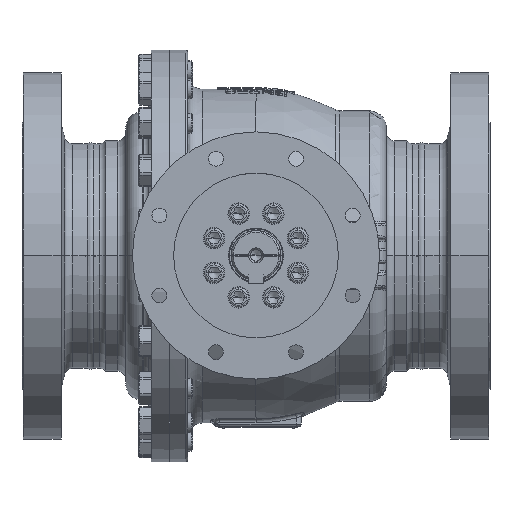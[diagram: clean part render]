
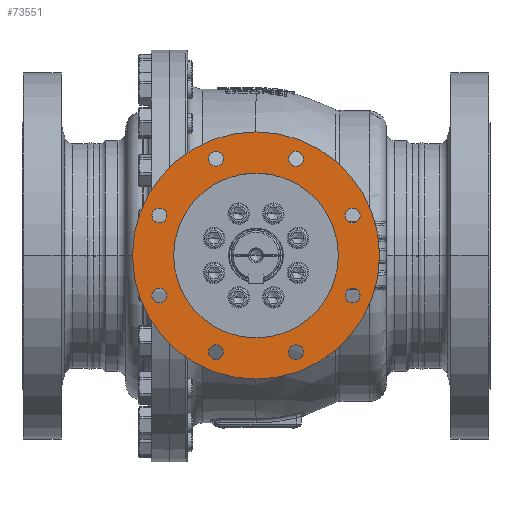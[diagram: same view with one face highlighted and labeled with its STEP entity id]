
A CAD part, top view. The second image highlights one B-rep face of the part: STEP entity #73551.
In plain terms, the highlighted planar face has unit normal (0, 0, 1).
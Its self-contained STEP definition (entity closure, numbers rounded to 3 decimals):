
#8326=CARTESIAN_POINT('',(0.,0.,349.));
#8327=DIRECTION('',(0.,0.,1.));
#8328=DIRECTION('',(1.,0.,0.));
#8329=AXIS2_PLACEMENT_3D('',#8326,#8327,#8328);
#8331=CARTESIAN_POINT('',(0.,0.,349.));
#8332=DIRECTION('',(0.,0.,-1.));
#8333=DIRECTION('',(1.,0.,0.));
#8334=AXIS2_PLACEMENT_3D('',#8331,#8332,#8333);
#8336=CARTESIAN_POINT('',(-117.333,48.601,349.));
#8337=DIRECTION('',(0.,0.,-1.));
#8338=DIRECTION('',(-1.,0.,0.));
#8339=AXIS2_PLACEMENT_3D('',#8336,#8337,#8338);
#8341=CARTESIAN_POINT('',(-117.333,48.601,349.));
#8342=DIRECTION('',(0.,0.,-1.));
#8343=DIRECTION('',(1.,0.,0.));
#8344=AXIS2_PLACEMENT_3D('',#8341,#8342,#8343);
#8346=CARTESIAN_POINT('',(-48.601,117.333,349.));
#8347=DIRECTION('',(0.,0.,-1.));
#8348=DIRECTION('',(-0.707,0.707,0.));
#8349=AXIS2_PLACEMENT_3D('',#8346,#8347,#8348);
#8351=CARTESIAN_POINT('',(-48.601,117.333,349.));
#8352=DIRECTION('',(0.,0.,-1.));
#8353=DIRECTION('',(0.707,-0.707,0.));
#8354=AXIS2_PLACEMENT_3D('',#8351,#8352,#8353);
#8356=CARTESIAN_POINT('',(48.601,117.333,349.));
#8357=DIRECTION('',(0.,0.,-1.));
#8358=DIRECTION('',(0.,1.,0.));
#8359=AXIS2_PLACEMENT_3D('',#8356,#8357,#8358);
#8361=CARTESIAN_POINT('',(48.601,117.333,349.));
#8362=DIRECTION('',(0.,0.,-1.));
#8363=DIRECTION('',(0.,-1.,0.));
#8364=AXIS2_PLACEMENT_3D('',#8361,#8362,#8363);
#8366=CARTESIAN_POINT('',(117.333,48.601,349.));
#8367=DIRECTION('',(0.,0.,-1.));
#8368=DIRECTION('',(0.707,0.707,0.));
#8369=AXIS2_PLACEMENT_3D('',#8366,#8367,#8368);
#8371=CARTESIAN_POINT('',(117.333,48.601,349.));
#8372=DIRECTION('',(0.,0.,-1.));
#8373=DIRECTION('',(-0.707,-0.707,0.));
#8374=AXIS2_PLACEMENT_3D('',#8371,#8372,#8373);
#8376=CARTESIAN_POINT('',(117.333,-48.601,349.));
#8377=DIRECTION('',(0.,0.,-1.));
#8378=DIRECTION('',(1.,0.,0.));
#8379=AXIS2_PLACEMENT_3D('',#8376,#8377,#8378);
#8381=CARTESIAN_POINT('',(117.333,-48.601,349.));
#8382=DIRECTION('',(0.,0.,-1.));
#8383=DIRECTION('',(-1.,0.,0.));
#8384=AXIS2_PLACEMENT_3D('',#8381,#8382,#8383);
#8386=CARTESIAN_POINT('',(48.601,-117.333,349.));
#8387=DIRECTION('',(0.,0.,-1.));
#8388=DIRECTION('',(0.707,-0.707,0.));
#8389=AXIS2_PLACEMENT_3D('',#8386,#8387,#8388);
#8391=CARTESIAN_POINT('',(48.601,-117.333,349.));
#8392=DIRECTION('',(0.,0.,-1.));
#8393=DIRECTION('',(-0.707,0.707,0.));
#8394=AXIS2_PLACEMENT_3D('',#8391,#8392,#8393);
#8396=CARTESIAN_POINT('',(-48.601,-117.333,349.));
#8397=DIRECTION('',(0.,0.,-1.));
#8398=DIRECTION('',(0.,-1.,0.));
#8399=AXIS2_PLACEMENT_3D('',#8396,#8397,#8398);
#8401=CARTESIAN_POINT('',(-48.601,-117.333,349.));
#8402=DIRECTION('',(0.,0.,-1.));
#8403=DIRECTION('',(0.,1.,0.));
#8404=AXIS2_PLACEMENT_3D('',#8401,#8402,#8403);
#8406=CARTESIAN_POINT('',(-117.333,-48.601,349.));
#8407=DIRECTION('',(0.,0.,-1.));
#8408=DIRECTION('',(-0.707,-0.707,0.));
#8409=AXIS2_PLACEMENT_3D('',#8406,#8407,#8408);
#8411=CARTESIAN_POINT('',(-117.333,-48.601,349.));
#8412=DIRECTION('',(0.,0.,-1.));
#8413=DIRECTION('',(0.707,0.707,0.));
#8414=AXIS2_PLACEMENT_3D('',#8411,#8412,#8413);
#8420=CARTESIAN_POINT('',(0.,0.,349.));
#8421=DIRECTION('',(0.,0.,-1.));
#8422=DIRECTION('',(1.,0.,0.));
#8423=AXIS2_PLACEMENT_3D('',#8420,#8421,#8422);
#8429=CARTESIAN_POINT('',(0.,0.,349.));
#8430=DIRECTION('',(0.,0.,1.));
#8431=DIRECTION('',(1.,0.,0.));
#8432=AXIS2_PLACEMENT_3D('',#8429,#8430,#8431);
#58408=CARTESIAN_POINT('',(100.,0.,349.));
#58410=VERTEX_POINT('',#58408);
#58412=CARTESIAN_POINT('',(-100.,0.,349.));
#58414=VERTEX_POINT('',#58412);
#58416=CARTESIAN_POINT('',(150.,0.,349.));
#58417=CARTESIAN_POINT('',(-150.,0.,349.));
#58418=VERTEX_POINT('',#58416);
#58419=VERTEX_POINT('',#58417);
#58552=CARTESIAN_POINT('',(-126.333,48.601,349.));
#58553=CARTESIAN_POINT('',(-108.333,48.601,349.));
#58554=VERTEX_POINT('',#58552);
#58555=VERTEX_POINT('',#58553);
#58556=CARTESIAN_POINT('',(-54.965,123.697,349.));
#58557=CARTESIAN_POINT('',(-42.237,110.969,349.));
#58558=VERTEX_POINT('',#58556);
#58559=VERTEX_POINT('',#58557);
#58560=CARTESIAN_POINT('',(48.601,126.333,349.));
#58561=CARTESIAN_POINT('',(48.601,108.333,349.));
#58562=VERTEX_POINT('',#58560);
#58563=VERTEX_POINT('',#58561);
#58564=CARTESIAN_POINT('',(123.697,54.965,349.));
#58565=CARTESIAN_POINT('',(110.969,42.237,349.));
#58566=VERTEX_POINT('',#58564);
#58567=VERTEX_POINT('',#58565);
#58568=CARTESIAN_POINT('',(126.333,-48.601,349.));
#58569=CARTESIAN_POINT('',(108.333,-48.601,349.));
#58570=VERTEX_POINT('',#58568);
#58571=VERTEX_POINT('',#58569);
#58572=CARTESIAN_POINT('',(54.965,-123.697,349.));
#58573=CARTESIAN_POINT('',(42.237,-110.969,349.));
#58574=VERTEX_POINT('',#58572);
#58575=VERTEX_POINT('',#58573);
#58576=CARTESIAN_POINT('',(-48.601,-126.333,349.));
#58577=CARTESIAN_POINT('',(-48.601,-108.333,349.));
#58578=VERTEX_POINT('',#58576);
#58579=VERTEX_POINT('',#58577);
#58580=CARTESIAN_POINT('',(-123.697,-54.965,349.));
#58581=CARTESIAN_POINT('',(-110.969,-42.237,349.));
#58582=VERTEX_POINT('',#58580);
#58583=VERTEX_POINT('',#58581);
#73488=CARTESIAN_POINT('',(0.,0.,349.));
#73489=DIRECTION('',(0.,0.,1.));
#73490=DIRECTION('',(1.,0.,0.));
#73491=AXIS2_PLACEMENT_3D('',#73488,#73489,#73490);
#73492=PLANE('',#73491);
#73493=ORIENTED_EDGE('',*,*,#73467,.F.);
#73494=ORIENTED_EDGE('',*,*,#73483,.T.);
#73495=EDGE_LOOP('',(#73493,#73494));
#73496=FACE_OUTER_BOUND('',#73495,.F.);
#73498=ORIENTED_EDGE('',*,*,#73497,.F.);
#73500=ORIENTED_EDGE('',*,*,#73499,.T.);
#73501=EDGE_LOOP('',(#73498,#73500));
#73502=FACE_BOUND('',#73501,.F.);
#73504=ORIENTED_EDGE('',*,*,#73503,.F.);
#73506=ORIENTED_EDGE('',*,*,#73505,.F.);
#73507=EDGE_LOOP('',(#73504,#73506));
#73508=FACE_BOUND('',#73507,.F.);
#73510=ORIENTED_EDGE('',*,*,#73509,.F.);
#73512=ORIENTED_EDGE('',*,*,#73511,.F.);
#73513=EDGE_LOOP('',(#73510,#73512));
#73514=FACE_BOUND('',#73513,.F.);
#73516=ORIENTED_EDGE('',*,*,#73515,.F.);
#73518=ORIENTED_EDGE('',*,*,#73517,.F.);
#73519=EDGE_LOOP('',(#73516,#73518));
#73520=FACE_BOUND('',#73519,.F.);
#73522=ORIENTED_EDGE('',*,*,#73521,.F.);
#73524=ORIENTED_EDGE('',*,*,#73523,.F.);
#73525=EDGE_LOOP('',(#73522,#73524));
#73526=FACE_BOUND('',#73525,.F.);
#73528=ORIENTED_EDGE('',*,*,#73527,.F.);
#73530=ORIENTED_EDGE('',*,*,#73529,.F.);
#73531=EDGE_LOOP('',(#73528,#73530));
#73532=FACE_BOUND('',#73531,.F.);
#73534=ORIENTED_EDGE('',*,*,#73533,.F.);
#73536=ORIENTED_EDGE('',*,*,#73535,.F.);
#73537=EDGE_LOOP('',(#73534,#73536));
#73538=FACE_BOUND('',#73537,.F.);
#73540=ORIENTED_EDGE('',*,*,#73539,.F.);
#73542=ORIENTED_EDGE('',*,*,#73541,.F.);
#73543=EDGE_LOOP('',(#73540,#73542));
#73544=FACE_BOUND('',#73543,.F.);
#73546=ORIENTED_EDGE('',*,*,#73545,.F.);
#73548=ORIENTED_EDGE('',*,*,#73547,.F.);
#73549=EDGE_LOOP('',(#73546,#73548));
#73550=FACE_BOUND('',#73549,.F.);
#73551=ADVANCED_FACE('',(#73496,#73502,#73508,#73514,#73520,#73526,#73532,
#73538,#73544,#73550),#73492,.T.);
#8330=CIRCLE('',#8329,150.);
#8335=CIRCLE('',#8334,150.);
#8340=CIRCLE('',#8339,9.);
#8345=CIRCLE('',#8344,9.);
#8350=CIRCLE('',#8349,9.);
#8355=CIRCLE('',#8354,9.);
#8360=CIRCLE('',#8359,9.);
#8365=CIRCLE('',#8364,9.);
#8370=CIRCLE('',#8369,9.);
#8375=CIRCLE('',#8374,9.);
#8380=CIRCLE('',#8379,9.);
#8385=CIRCLE('',#8384,9.);
#8390=CIRCLE('',#8389,9.);
#8395=CIRCLE('',#8394,9.);
#8400=CIRCLE('',#8399,9.);
#8405=CIRCLE('',#8404,9.);
#8410=CIRCLE('',#8409,9.);
#8415=CIRCLE('',#8414,9.);
#8424=CIRCLE('',#8423,100.);
#8433=CIRCLE('',#8432,100.);
#73467=EDGE_CURVE('',#58418,#58419,#8330,.T.);
#73483=EDGE_CURVE('',#58418,#58419,#8335,.T.);
#73497=EDGE_CURVE('',#58410,#58414,#8424,.T.);
#73499=EDGE_CURVE('',#58410,#58414,#8433,.T.);
#73503=EDGE_CURVE('',#58554,#58555,#8340,.T.);
#73505=EDGE_CURVE('',#58555,#58554,#8345,.T.);
#73509=EDGE_CURVE('',#58558,#58559,#8350,.T.);
#73511=EDGE_CURVE('',#58559,#58558,#8355,.T.);
#73515=EDGE_CURVE('',#58562,#58563,#8360,.T.);
#73517=EDGE_CURVE('',#58563,#58562,#8365,.T.);
#73521=EDGE_CURVE('',#58566,#58567,#8370,.T.);
#73523=EDGE_CURVE('',#58567,#58566,#8375,.T.);
#73527=EDGE_CURVE('',#58570,#58571,#8380,.T.);
#73529=EDGE_CURVE('',#58571,#58570,#8385,.T.);
#73533=EDGE_CURVE('',#58574,#58575,#8390,.T.);
#73535=EDGE_CURVE('',#58575,#58574,#8395,.T.);
#73539=EDGE_CURVE('',#58578,#58579,#8400,.T.);
#73541=EDGE_CURVE('',#58579,#58578,#8405,.T.);
#73545=EDGE_CURVE('',#58582,#58583,#8410,.T.);
#73547=EDGE_CURVE('',#58583,#58582,#8415,.T.);
